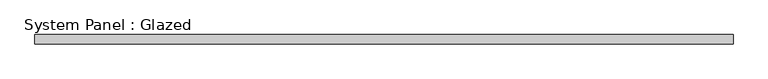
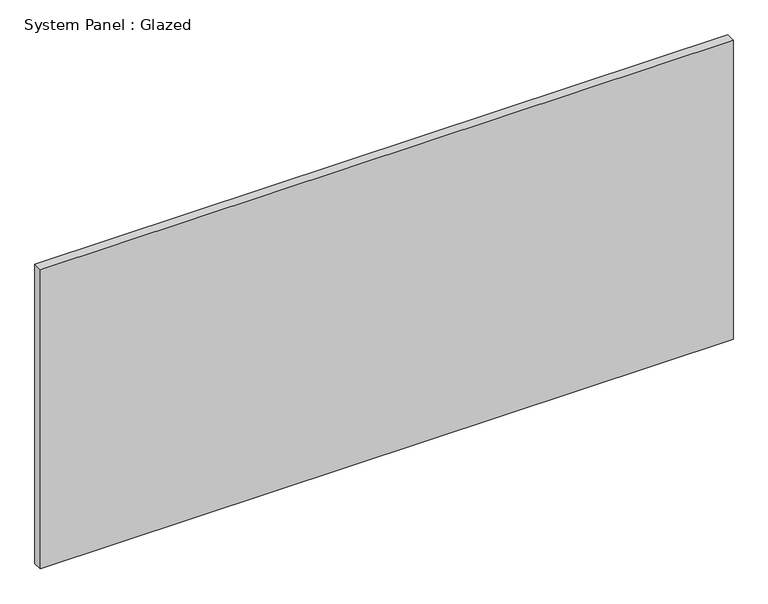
"""IFC4 building model written with IfcOpenShell, lengths in millimetres: plate geometry, System Panel : Glazed."""

from ifc_helpers import new_model, si_unit, origin, origin_with_axes, place, context, project, spatial, polyline, outline, extrude, source, transform, mapped, element, save


def system_panel_glazed_96e4dd87(model_context):
    return source(origin(), model_context, "Body", "SweptSolid", [
        extrude(outline(polyline([(952.5, 19.05), (-952.5, 19.05), (-952.5, 44.45), (952.5, 44.45), (952.5, 19.05)])), origin_with_axes(), (0.0, 0.0, 1.0), 869.95),
    ])


if __name__ == "__main__":
    model = new_model("IFC4")
    model_context = context("Model", 3, world=origin())
    ifc_project = project(units=[si_unit("LENGTHUNIT", "METRE", prefix="MILLI")], contexts=[model_context])
    site = spatial("IfcSite", under=ifc_project)
    building = spatial("IfcBuilding", under=site)
    placement = place(None, origin())
    system_panel_glazed_shape = system_panel_glazed_96e4dd87(model_context)
    element("IfcPlate", 1, ObjectType="System Panel : Glazed", at=placement, inside=building, context=model_context, shape_type="MappedRepresentation", body=[
        mapped(system_panel_glazed_shape, transform((0.0, 0.0, 0.0), x_axis=(1.0, 0.0, 0.0), y_axis=(0.0, 1.0, 0.0), z_axis=(0.0, 0.0, 1.0))),
    ])
    save(model, "model.ifc")
